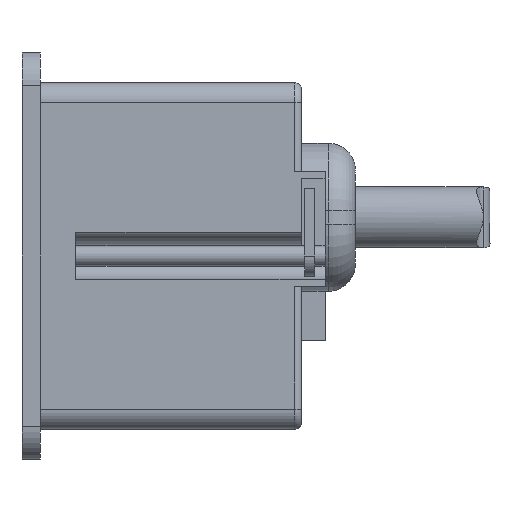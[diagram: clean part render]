
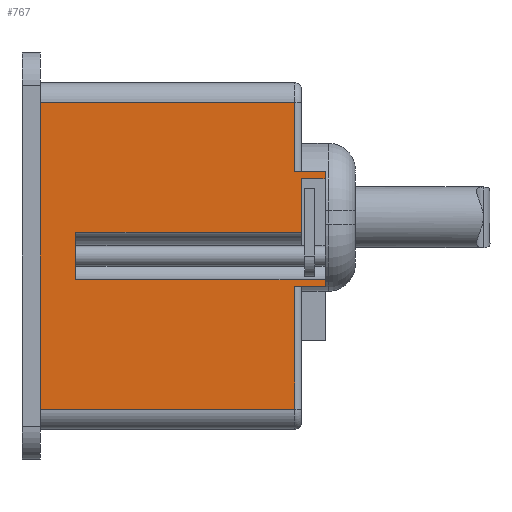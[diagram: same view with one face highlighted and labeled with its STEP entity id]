
A CAD part, left-side view. The second image highlights one B-rep face of the part: STEP entity #767.
In plain terms, the highlighted planar face has unit normal (-1, 0, 0).
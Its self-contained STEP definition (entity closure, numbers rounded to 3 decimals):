
#26 = DIRECTION ( 'NONE',  ( 0., 1., 0. ) ) ;
#49 = VECTOR ( 'NONE', #4582, 1000. ) ;
#223 = EDGE_CURVE ( 'NONE', #1874, #1687, #1505, .T. ) ;
#431 = LINE ( 'NONE', #2182, #3528 ) ;
#442 = LINE ( 'NONE', #4613, #49 ) ;
#560 = VERTEX_POINT ( 'NONE', #5180 ) ;
#592 = DIRECTION ( 'NONE',  ( 0., 0., 1. ) ) ;
#623 = EDGE_CURVE ( 'NONE', #5968, #3953, #1527, .T. ) ;
#634 = CARTESIAN_POINT ( 'NONE',  ( -74.6, 38.8, -22.75 ) ) ;
#669 = EDGE_CURVE ( 'NONE', #857, #5968, #5604, .T. ) ;
#714 = LINE ( 'NONE', #4392, #4053 ) ;
#767 = ADVANCED_FACE ( 'NONE', ( #3879 ), #5273, .F. ) ;
#841 = CARTESIAN_POINT ( 'NONE',  ( -74.6, 1., 22.75 ) ) ;
#843 = EDGE_CURVE ( 'NONE', #5910, #1036, #4084, .T. ) ;
#857 = VERTEX_POINT ( 'NONE', #3125 ) ;
#875 = VECTOR ( 'NONE', #26, 1000. ) ;
#1020 = VECTOR ( 'NONE', #1314, 1000. ) ;
#1036 = VERTEX_POINT ( 'NONE', #2969 ) ;
#1043 = CARTESIAN_POINT ( 'NONE',  ( -74.6, 33.5, 3.5 ) ) ;
#1135 = VERTEX_POINT ( 'NONE', #1607 ) ;
#1229 = CARTESIAN_POINT ( 'NONE',  ( -74.6, 41.5, 25.75 ) ) ;
#1286 = CARTESIAN_POINT ( 'NONE',  ( -74.6, 0., 11.5 ) ) ;
#1314 = DIRECTION ( 'NONE',  ( 0., -1., 0. ) ) ;
#1355 = LINE ( 'NONE', #841, #2582 ) ;
#1357 = ORIENTED_EDGE ( 'NONE', *, *, #623, .F. ) ;
#1418 = CARTESIAN_POINT ( 'NONE',  ( -74.6, -3.5, 12.5 ) ) ;
#1505 = LINE ( 'NONE', #5612, #5866 ) ;
#1527 = LINE ( 'NONE', #3336, #3844 ) ;
#1545 = VECTOR ( 'NONE', #5277, 1000. ) ;
#1557 = DIRECTION ( 'NONE',  ( 1., 0., 0. ) ) ;
#1607 = CARTESIAN_POINT ( 'NONE',  ( -74.6, 33.5, 3.5 ) ) ;
#1623 = EDGE_CURVE ( 'NONE', #1874, #560, #4626, .T. ) ;
#1667 = ORIENTED_EDGE ( 'NONE', *, *, #4198, .T. ) ;
#1687 = VERTEX_POINT ( 'NONE', #4368 ) ;
#1708 = EDGE_CURVE ( 'NONE', #5618, #1036, #3492, .T. ) ;
#1769 = CARTESIAN_POINT ( 'NONE',  ( -74.6, -3.5, 12.5 ) ) ;
#1838 = DIRECTION ( 'NONE',  ( 0., 0., 1. ) ) ;
#1856 = ORIENTED_EDGE ( 'NONE', *, *, #669, .F. ) ;
#1874 = VERTEX_POINT ( 'NONE', #1769 ) ;
#1946 = VERTEX_POINT ( 'NONE', #2199 ) ;
#1954 = DIRECTION ( 'NONE',  ( 0., -1., 0. ) ) ;
#2010 = LINE ( 'NONE', #2437, #3095 ) ;
#2120 = AXIS2_PLACEMENT_3D ( 'NONE', #1229, #1557, #3067 ) ;
#2182 = CARTESIAN_POINT ( 'NONE',  ( -74.6, -3.5, -4.5 ) ) ;
#2199 = CARTESIAN_POINT ( 'NONE',  ( -74.6, 1., -4.5 ) ) ;
#2206 = EDGE_CURVE ( 'NONE', #1687, #3250, #714, .T. ) ;
#2214 = EDGE_CURVE ( 'NONE', #2231, #3250, #2010, .T. ) ;
#2231 = VERTEX_POINT ( 'NONE', #3572 ) ;
#2406 = VECTOR ( 'NONE', #5385, 1000. ) ;
#2411 = ORIENTED_EDGE ( 'NONE', *, *, #4792, .T. ) ;
#2420 = CARTESIAN_POINT ( 'NONE',  ( -74.6, 38.8, -22.75 ) ) ;
#2437 = CARTESIAN_POINT ( 'NONE',  ( -74.6, 0., 25.75 ) ) ;
#2438 = CARTESIAN_POINT ( 'NONE',  ( -74.6, 51.399, -3.5 ) ) ;
#2504 = ORIENTED_EDGE ( 'NONE', *, *, #2206, .F. ) ;
#2582 = VECTOR ( 'NONE', #2678, 1000. ) ;
#2678 = DIRECTION ( 'NONE',  ( 0., 0., 1. ) ) ;
#2892 = ORIENTED_EDGE ( 'NONE', *, *, #5444, .F. ) ;
#2969 = CARTESIAN_POINT ( 'NONE',  ( -74.6, 38.8, 22.75 ) ) ;
#3035 = ORIENTED_EDGE ( 'NONE', *, *, #4632, .T. ) ;
#3045 = VECTOR ( 'NONE', #592, 1000. ) ;
#3067 = DIRECTION ( 'NONE',  ( 0., 0., -1. ) ) ;
#3071 = EDGE_CURVE ( 'NONE', #4148, #1946, #4093, .T. ) ;
#3091 = EDGE_LOOP ( 'NONE', ( #5919, #1667, #3281, #4297, #5935, #3589, #2892, #1357, #1856, #2411, #3035, #5558, #2504, #3638 ) ) ;
#3095 = VECTOR ( 'NONE', #4794, 1000. ) ;
#3125 = CARTESIAN_POINT ( 'NONE',  ( -74.6, 33.5, -3.5 ) ) ;
#3250 = VERTEX_POINT ( 'NONE', #1286 ) ;
#3281 = ORIENTED_EDGE ( 'NONE', *, *, #843, .T. ) ;
#3336 = CARTESIAN_POINT ( 'NONE',  ( -74.6, -3.5, 0. ) ) ;
#3344 = DIRECTION ( 'NONE',  ( 0., 0., -1. ) ) ;
#3492 = LINE ( 'NONE', #634, #1545 ) ;
#3528 = VECTOR ( 'NONE', #5404, 1000. ) ;
#3572 = CARTESIAN_POINT ( 'NONE',  ( -74.6, 0., 3.5 ) ) ;
#3589 = ORIENTED_EDGE ( 'NONE', *, *, #3071, .T. ) ;
#3638 = ORIENTED_EDGE ( 'NONE', *, *, #223, .F. ) ;
#3698 = CARTESIAN_POINT ( 'NONE',  ( -74.6, 1., 22.75 ) ) ;
#3787 = LINE ( 'NONE', #1043, #3045 ) ;
#3792 = DIRECTION ( 'NONE',  ( 0., 0., -1. ) ) ;
#3844 = VECTOR ( 'NONE', #3792, 1000. ) ;
#3875 = CARTESIAN_POINT ( 'NONE',  ( -74.6, -3.5, -3.5 ) ) ;
#3879 = FACE_OUTER_BOUND ( 'NONE', #3091, .T. ) ;
#3953 = VERTEX_POINT ( 'NONE', #4089 ) ;
#4053 = VECTOR ( 'NONE', #5331, 1000. ) ;
#4084 = LINE ( 'NONE', #5476, #2406 ) ;
#4085 = CARTESIAN_POINT ( 'NONE',  ( -74.6, 41.5, -22.75 ) ) ;
#4089 = CARTESIAN_POINT ( 'NONE',  ( -74.6, -3.5, -4.5 ) ) ;
#4093 = LINE ( 'NONE', #5908, #5608 ) ;
#4148 = VERTEX_POINT ( 'NONE', #4432 ) ;
#4198 = EDGE_CURVE ( 'NONE', #560, #5910, #1355, .T. ) ;
#4297 = ORIENTED_EDGE ( 'NONE', *, *, #1708, .F. ) ;
#4368 = CARTESIAN_POINT ( 'NONE',  ( -74.6, -3.5, 11.5 ) ) ;
#4392 = CARTESIAN_POINT ( 'NONE',  ( -74.6, -3.5, 11.5 ) ) ;
#4426 = VECTOR ( 'NONE', #1954, 1000. ) ;
#4432 = CARTESIAN_POINT ( 'NONE',  ( -74.6, 1., -22.75 ) ) ;
#4582 = DIRECTION ( 'NONE',  ( 0., -1., 0. ) ) ;
#4613 = CARTESIAN_POINT ( 'NONE',  ( -74.6, 51.399, 3.5 ) ) ;
#4626 = LINE ( 'NONE', #1418, #875 ) ;
#4632 = EDGE_CURVE ( 'NONE', #1135, #2231, #442, .T. ) ;
#4669 = EDGE_CURVE ( 'NONE', #5618, #4148, #5446, .T. ) ;
#4792 = EDGE_CURVE ( 'NONE', #857, #1135, #3787, .T. ) ;
#4794 = DIRECTION ( 'NONE',  ( 0., 0., 1. ) ) ;
#5180 = CARTESIAN_POINT ( 'NONE',  ( -74.6, 1., 12.5 ) ) ;
#5273 = PLANE ( 'NONE',  #2120 ) ;
#5277 = DIRECTION ( 'NONE',  ( 0., 0., 1. ) ) ;
#5331 = DIRECTION ( 'NONE',  ( 0., 1., 0. ) ) ;
#5385 = DIRECTION ( 'NONE',  ( 0., 1., 0. ) ) ;
#5404 = DIRECTION ( 'NONE',  ( 0., 1., 0. ) ) ;
#5444 = EDGE_CURVE ( 'NONE', #3953, #1946, #431, .T. ) ;
#5446 = LINE ( 'NONE', #4085, #1020 ) ;
#5476 = CARTESIAN_POINT ( 'NONE',  ( -74.6, 41.5, 22.75 ) ) ;
#5558 = ORIENTED_EDGE ( 'NONE', *, *, #2214, .T. ) ;
#5604 = LINE ( 'NONE', #2438, #4426 ) ;
#5608 = VECTOR ( 'NONE', #1838, 1000. ) ;
#5612 = CARTESIAN_POINT ( 'NONE',  ( -74.6, -3.5, 0. ) ) ;
#5618 = VERTEX_POINT ( 'NONE', #2420 ) ;
#5866 = VECTOR ( 'NONE', #3344, 1000. ) ;
#5908 = CARTESIAN_POINT ( 'NONE',  ( -74.6, 1., -4.5 ) ) ;
#5910 = VERTEX_POINT ( 'NONE', #3698 ) ;
#5919 = ORIENTED_EDGE ( 'NONE', *, *, #1623, .T. ) ;
#5935 = ORIENTED_EDGE ( 'NONE', *, *, #4669, .T. ) ;
#5968 = VERTEX_POINT ( 'NONE', #3875 ) ;
